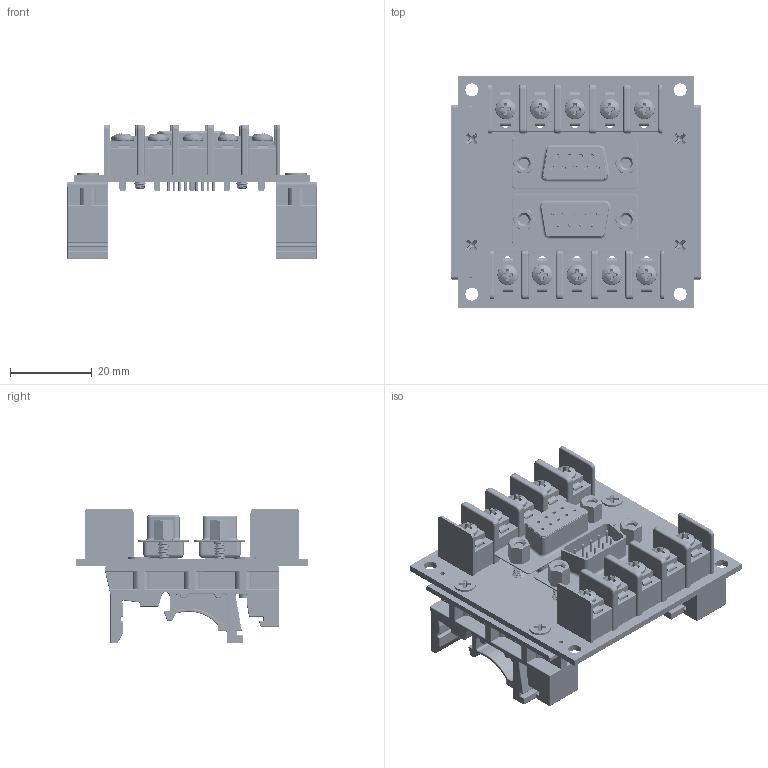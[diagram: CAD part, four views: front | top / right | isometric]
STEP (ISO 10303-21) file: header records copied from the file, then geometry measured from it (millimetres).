
FILE_DESCRIPTION(('FreeCAD Model'),'2;1');
FILE_NAME('Open CASCADE Shape Model','2025-02-08T18:38:20',(''),(''), 'Open CASCADE STEP processor 7.6','FreeCAD','Unknown');
FILE_SCHEMA(('AUTOMOTIVE_DESIGN { 1 0 10303 214 1 1 1 1 }'));
Length unit declared in the file: millimetre
Products named in the file (53): dsub9-terminal; Local_CS_6c73; Board_Geoms_6c73; Pcb_6c73; PCB_Sketch_6c73; botSilks_c2e; topSilks_1fa; Step_Models_6c73; Top_6c73; TB2_User Library-KF8500-3P_null; K8500 1S; K8500 Midlle Block; K8500 Wall; K8500 Wall001; K8500 Pad; K8500 Washer; M3x6mm_92005A066; K8500 1S001; K8500 Midlle Block001; K8500 Wall002; K8500 Wall003; K8500 Pad001; K8500 Washer001; M3x6mm_92005A067; K8500 1S002; K8500 Midlle Block002; K8500 Wall004; K8500 Wall005; K8500 Pad002; K8500 Washer002; M3x6mm_92005A068; F_DSUB-9_Female_Vertical_P2.77x2.84mm_MountingHoles_null; F_74m9499_5205818-2_null[2]; TB1_User_Library-KF8500-3P_null; K8500_1S001; K8500_Midlle_Block002; K8500_Wall005; K8500_Wall006; K8500_Pad002; K8500_Washer002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
Assembly tree (61 placements, depth 6):
  dsub9-terminal
    Local_CS_6c73
    Board_Geoms_6c73
      Pcb_6c73
      PCB_Sketch_6c73
      botSilks_c2e
      topSilks_1fa
    Step_Models_6c73
      Top_6c73
        TB2_User Library-KF8500-3P_null  x2
          K8500 1S
            K8500 Midlle Block
            K8500 Wall
            K8500 Wall001
            K8500 Pad
            K8500 Washer
            M3x6mm_92005A066
          K8500 1S001
            K8500 Midlle Block001
            K8500 Wall002
            K8500 Wall003
            K8500 Pad001
            K8500 Washer001
            M3x6mm_92005A067
          K8500 1S002
            K8500 Midlle Block002
            K8500 Wall004
            K8500 Wall005
            K8500 Pad002
            K8500 Washer002
            M3x6mm_92005A068
        F_DSUB-9_Female_Vertical_P2.77x2.84mm_MountingHoles_null
        F_74m9499_5205818-2_null[2]  x4
        TB1_User_Library-KF8500-3P_null  x2
          K8500_1S001
            K8500_Midlle_Block002
            K8500_Wall005
            K8500_Wall006
            K8500_Pad002
            K8500_Washer002
            M3x6mm_92005A069
          K8500_1S002
            K8500_Midlle_Block003
            K8500_Wall007
            K8500_Wall008
            K8500_Pad003
            K8500_Washer003
            M3x6mm_92005A070
        M_DSUB-9_Male_Vertical_P2.77x2.84mm_MountingHoles_null
    Step_Virtual_Models_6c73
      TopV_6c73
        ${REFERENCE}_User_Library-CMI00027_null  x2
        ${REFERENCE}_M3x10-Screw_null[2]  x4
Bounding box: 61 x 57 x 33 mm (x, y, z)
Volume: 23460.7 mm3; surface area: 35607.4 mm2
Topology: 73 solids, 157 shells, 3340 faces, 15693 edges, 12657 vertices
Faces by surface type: cylinder 1476, plane 1206, cone 205, bspline 168, torus 163, revolution 108, sphere 14
Full cylindrical faces by diameter (mm): 0.64 x36, 0.853 x9, 1 x18, 1.152 x3, 1.7 x10, 3 x4, 3.2 x16, 5.3 x4
Entity records: 126658 total; most frequent: CARTESIAN_POINT 37411, ORIENTED_EDGE 15985, DIRECTION 15657, EDGE_CURVE 11659, VERTEX_POINT 10077, LINE 9426, VECTOR 9426, AXIS2_PLACEMENT_3D 3087
